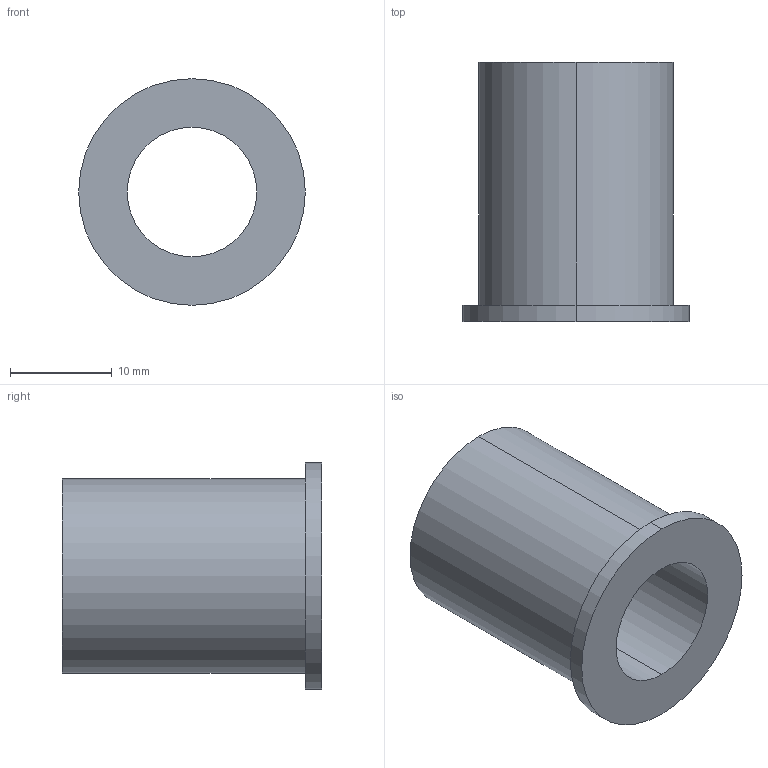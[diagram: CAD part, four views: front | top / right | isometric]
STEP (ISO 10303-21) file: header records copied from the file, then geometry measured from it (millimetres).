
FILE_DESCRIPTION (( 'STEP AP203' ), '1' );
FILE_NAME ('6389K449.STEP', '2017-10-10T15:06:49', ( '' ), ( '' ), 'SwSTEP 2.0', 'SolidWorks 2014', '' );
FILE_SCHEMA (( 'CONFIG_CONTROL_DESIGN' ));
Length unit declared in the file: inch
Products named in the file (1): 6389K449
Bounding box: 22.23 x 25.4 x 22.23 mm (x, y, z)
Volume: 4185.4 mm3; surface area: 3071.9 mm2
Topology: 1 solids, 1 shells, 9 faces, 18 edges, 12 vertices
Faces by surface type: cylinder 6, plane 3
Entity records: 327 total; most frequent: DIRECTION 50, CARTESIAN_POINT 40, ORIENTED_EDGE 36, AXIS2_PLACEMENT_3D 22, EDGE_CURVE 18, EDGE_LOOP 12, VERTEX_POINT 12, CIRCLE 12
